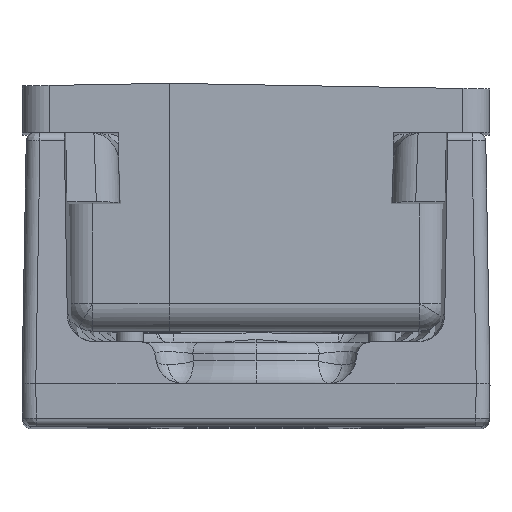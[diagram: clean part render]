
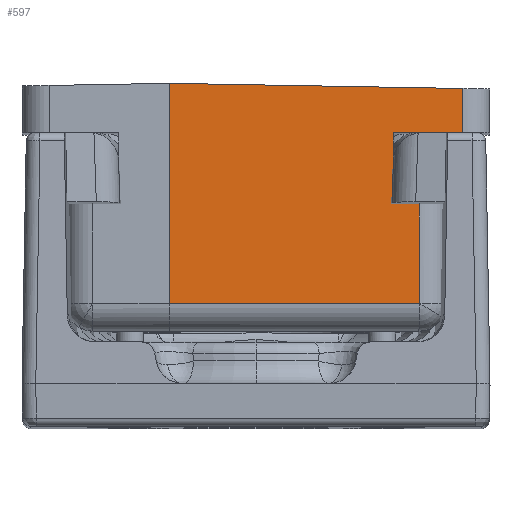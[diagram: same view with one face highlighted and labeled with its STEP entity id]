
A CAD part, top view. The second image highlights one B-rep face of the part: STEP entity #597.
In plain terms, the highlighted planar face has unit normal (0.018, 0, 1).
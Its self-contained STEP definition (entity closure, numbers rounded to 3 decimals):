
#597=ADVANCED_FACE('',(#1633),#1634,.T.);
#1633=FACE_OUTER_BOUND('',#3114,.T.);
#1634=PLANE('',#3115);
#3114=EDGE_LOOP('',(#7769,#7770,#7771,#7772,#7773,#7774,#7775,#7776));
#3115=AXIS2_PLACEMENT_3D('',#7777,#7778,#7779);
#7769=ORIENTED_EDGE('',*,*,#12015,.T.);
#7770=ORIENTED_EDGE('',*,*,#12016,.T.);
#7771=ORIENTED_EDGE('',*,*,#11993,.T.);
#7772=ORIENTED_EDGE('',*,*,#12017,.T.);
#7773=ORIENTED_EDGE('',*,*,#12018,.T.);
#7774=ORIENTED_EDGE('',*,*,#11751,.T.);
#7775=ORIENTED_EDGE('',*,*,#12019,.T.);
#7776=ORIENTED_EDGE('',*,*,#12020,.T.);
#7777=CARTESIAN_POINT('',(-3.15,12.46,24.55));
#7778=DIRECTION('',(0.017,0.0,1.));
#7779=DIRECTION('',(-1.,0.0,0.017));
#11751=EDGE_CURVE('',#13544,#13542,#13545,.T.);
#11993=EDGE_CURVE('',#13953,#13950,#13954,.T.);
#12015=EDGE_CURVE('',#13991,#13992,#13993,.T.);
#12016=EDGE_CURVE('',#13992,#13953,#13994,.T.);
#12017=EDGE_CURVE('',#13950,#13995,#13996,.T.);
#12018=EDGE_CURVE('',#13995,#13544,#13997,.T.);
#12019=EDGE_CURVE('',#13542,#13998,#13999,.T.);
#12020=EDGE_CURVE('',#13998,#13991,#14000,.T.);
#13542=VERTEX_POINT('',#16136);
#13544=VERTEX_POINT('',#16138);
#13545=LINE('',#16139,#16140);
#13950=VERTEX_POINT('',#17246);
#13953=VERTEX_POINT('',#17250);
#13954=LINE('',#17251,#17252);
#13991=VERTEX_POINT('',#17303);
#13992=VERTEX_POINT('',#17304);
#13993=LINE('',#17305,#17306);
#13994=LINE('',#17307,#17308);
#13995=VERTEX_POINT('',#17309);
#13996=LINE('',#17310,#17311);
#13997=LINE('',#17312,#17313);
#13998=VERTEX_POINT('',#17314);
#13999=LINE('',#17315,#17316);
#14000=LINE('',#17317,#17318);
#16136=CARTESIAN_POINT('',(5.932,8.153,24.391));
#16138=CARTESIAN_POINT('',(5.932,4.46,24.391));
#16139=CARTESIAN_POINT('',(5.932,4.46,24.391));
#16140=VECTOR('',#23341,3.693);
#17246=CARTESIAN_POINT('',(-3.15,12.46,24.55));
#17250=CARTESIAN_POINT('',(7.517,12.274,24.364));
#17251=CARTESIAN_POINT('',(7.517,12.274,24.364));
#17252=VECTOR('',#23719,10.671);
#17303=CARTESIAN_POINT('',(4.994,10.66,24.408));
#17304=CARTESIAN_POINT('',(7.517,10.66,24.364));
#17305=CARTESIAN_POINT('',(4.994,10.66,24.408));
#17306=VECTOR('',#23746,2.523);
#17307=CARTESIAN_POINT('',(7.517,10.66,24.364));
#17308=VECTOR('',#23747,1.614);
#17309=CARTESIAN_POINT('',(-3.15,4.46,24.55));
#17310=CARTESIAN_POINT('',(-3.15,12.46,24.55));
#17311=VECTOR('',#23748,8.);
#17312=CARTESIAN_POINT('',(-3.15,4.46,24.55));
#17313=VECTOR('',#23749,9.083);
#17314=CARTESIAN_POINT('',(4.994,8.154,24.408));
#17315=CARTESIAN_POINT('',(5.932,8.153,24.391));
#17316=VECTOR('',#23750,0.938);
#17317=CARTESIAN_POINT('',(4.994,8.154,24.408));
#17318=VECTOR('',#23751,2.506);
#23341=DIRECTION('',(0.0,1.0,0.0));
#23719=DIRECTION('',(-1.,0.017,0.017));
#23746=DIRECTION('',(1.,0.0,-0.017));
#23747=DIRECTION('',(0.0,1.0,0.0));
#23748=DIRECTION('',(0.0,-1.0,0.0));
#23749=DIRECTION('',(1.,0.0,-0.017));
#23750=DIRECTION('',(-1.,0.001,0.017));
#23751=DIRECTION('',(0.0,1.0,0.0));
